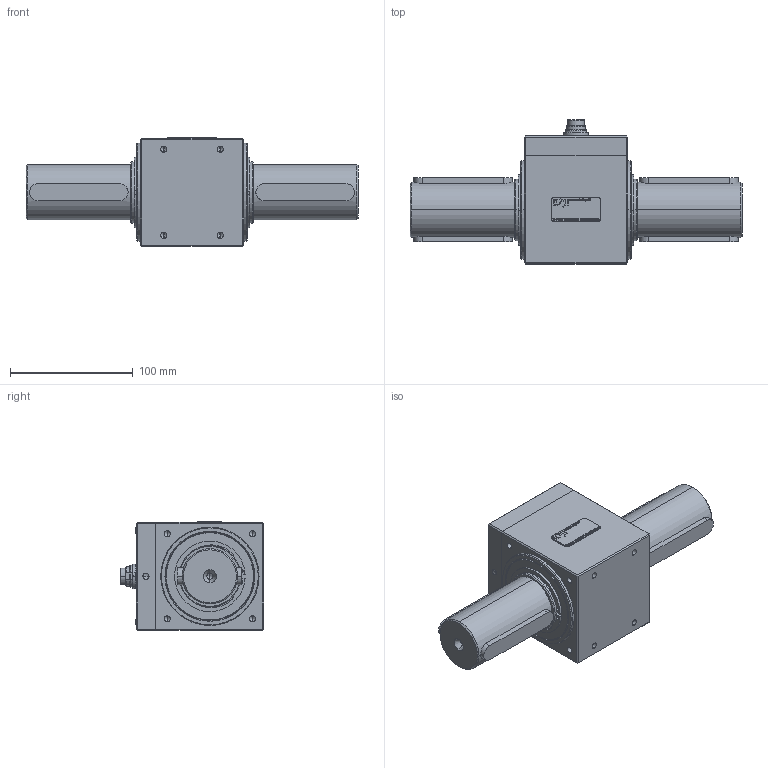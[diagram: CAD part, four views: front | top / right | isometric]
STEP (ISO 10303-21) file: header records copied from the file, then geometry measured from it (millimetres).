
FILE_DESCRIPTION (( 'STEP AP214' ), '1' );
FILE_NAME ('DRFL-IV mit Passfedern.STEP', '2018-07-05T11:58:52', ( 'nsi' ), ( '' ), 'SwSTEP 2.0', 'SolidWorks 2018', '' );
FILE_SCHEMA (( 'AUTOMOTIVE_DESIGN' ));
Length unit declared in the file: millimetre
Products named in the file (1): DRFL-IV mit Passfedern
Bounding box: 270 x 117.1 x 88.51 mm (x, y, z)
Volume: 878891.2 mm3; surface area: 226504.3 mm2
Topology: 33 solids, 81 shells, 1998 faces, 5518 edges, 3587 vertices
Faces by surface type: plane 651, cylinder 401, bspline 375, sphere 214, torus 182, cone 175
Entity records: 97597 total; most frequent: CARTESIAN_POINT 29442, ORIENTED_EDGE 9976, DIRECTION 8557, EDGE_CURVE 4988, VERTEX_POINT 3299, AXIS2_PLACEMENT_3D 3174, EDGE_LOOP 2223, VECTOR 2209
